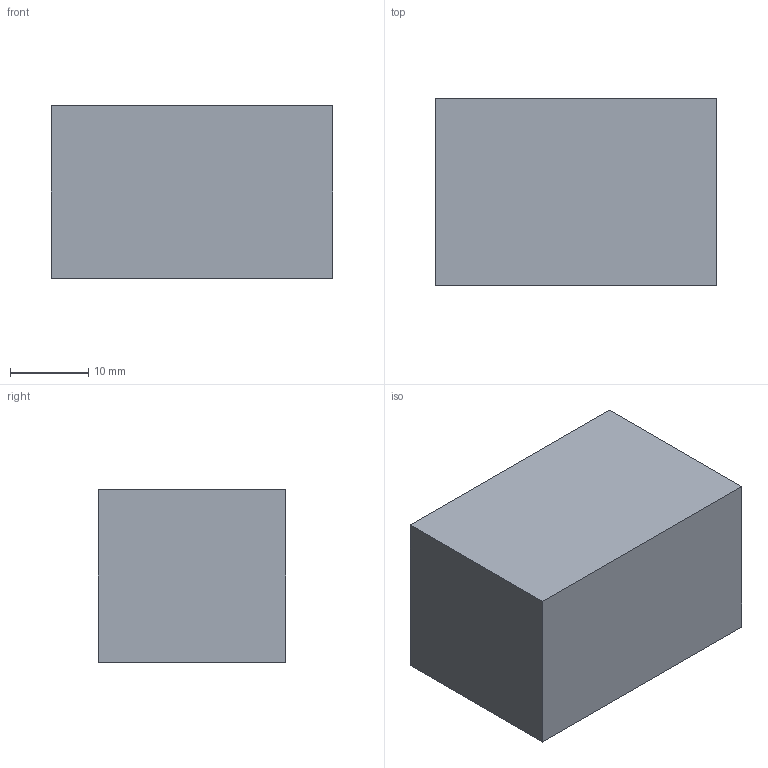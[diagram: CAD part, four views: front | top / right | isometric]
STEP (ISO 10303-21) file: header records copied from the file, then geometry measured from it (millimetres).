
FILE_DESCRIPTION(('Open CASCADE Model'),'2;1');
FILE_NAME('Open CASCADE Shape Model','2026-10-13T11:47:38',('Author'),( 'Open CASCADE'),'Open CASCADE STEP processor 7.8','Open CASCADE 7.8' ,'Unknown');
FILE_SCHEMA(('AUTOMOTIVE_DESIGN { 1 0 10303 214 1 1 1 1 }'));
Length unit declared in the file: millimetre
Products named in the file (1): Open CASCADE STEP translator 7.8 115
Bounding box: 36 x 24 x 22 mm (x, y, z)
Volume: 19008 mm3; surface area: 4368 mm2
Topology: 1 solids, 1 shells, 6 faces, 12 edges, 8 vertices
Faces by surface type: plane 6
Entity records: 322 total; most frequent: CARTESIAN_POINT 51, DIRECTION 50, LINE 36, VECTOR 36, ORIENTED_EDGE 24, PCURVE 24, DEFINITIONAL_REPRESENTATION 24, EDGE_CURVE 12
